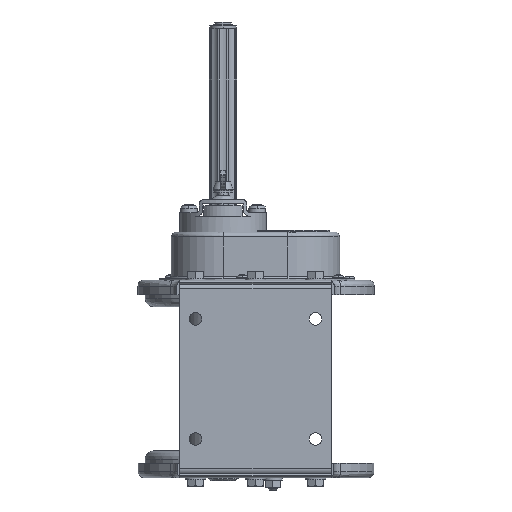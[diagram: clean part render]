
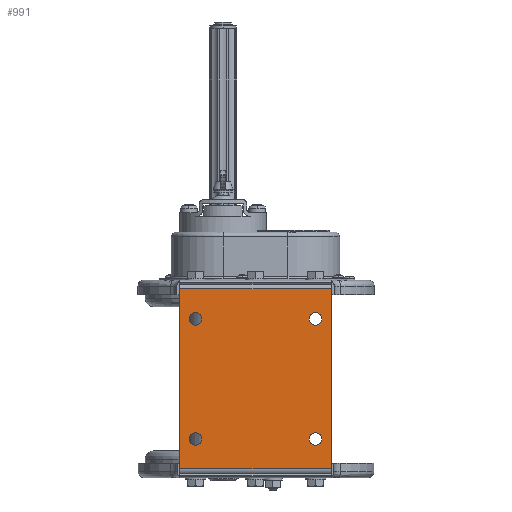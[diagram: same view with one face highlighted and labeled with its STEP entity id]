
A CAD part, front view. The second image highlights one B-rep face of the part: STEP entity #991.
In plain terms, the highlighted planar face has unit normal (0, -1, 0).
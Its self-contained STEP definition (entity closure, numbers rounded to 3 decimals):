
#991=ADVANCED_FACE('',(#11130,#11131,#11132,#11133,#11134),#11129,.F.);
#11129=PLANE('',#31194);
#11130=FACE_OUTER_BOUND('',#31195,.T.);
#11131=FACE_BOUND('',#31196,.T.);
#11132=FACE_BOUND('',#31197,.T.);
#11133=FACE_BOUND('',#31198,.T.);
#11134=FACE_BOUND('',#31199,.T.);
#31191=CARTESIAN_POINT('',(284.159,428.345,335.9));
#31192=DIRECTION('',(0.,1.,0.));
#31193=DIRECTION('',(0.,0.,1.));
#31194=AXIS2_PLACEMENT_3D('',#31191,#31192,#31193);
#31195=EDGE_LOOP('',(#44318,#44319,#44320,#44321));
#31196=EDGE_LOOP('',(#44322,#44323));
#31197=EDGE_LOOP('',(#44324,#44325));
#31198=EDGE_LOOP('',(#44326,#44327));
#31199=EDGE_LOOP('',(#44328,#44329));
#44318=ORIENTED_EDGE('',*,*,#53640,.F.);
#44319=ORIENTED_EDGE('',*,*,#53642,.F.);
#44320=ORIENTED_EDGE('',*,*,#53593,.T.);
#44321=ORIENTED_EDGE('',*,*,#53643,.T.);
#44322=ORIENTED_EDGE('',*,*,#53644,.T.);
#44323=ORIENTED_EDGE('',*,*,#53645,.T.);
#44324=ORIENTED_EDGE('',*,*,#53646,.T.);
#44325=ORIENTED_EDGE('',*,*,#53647,.T.);
#44326=ORIENTED_EDGE('',*,*,#53648,.T.);
#44327=ORIENTED_EDGE('',*,*,#53649,.T.);
#44328=ORIENTED_EDGE('',*,*,#53650,.T.);
#44329=ORIENTED_EDGE('',*,*,#53651,.T.);
#53593=EDGE_CURVE('',#73874,#73888,#73895,.T.);
#53640=EDGE_CURVE('',#74208,#74215,#74216,.T.);
#53642=EDGE_CURVE('',#73874,#74208,#74228,.T.);
#53643=EDGE_CURVE('',#73888,#74215,#74234,.T.);
#53644=EDGE_CURVE('',#74240,#74241,#74242,.T.);
#53645=EDGE_CURVE('',#74241,#74240,#74248,.T.);
#53646=EDGE_CURVE('',#74254,#74255,#74256,.T.);
#53647=EDGE_CURVE('',#74255,#74254,#74262,.T.);
#53648=EDGE_CURVE('',#74268,#74269,#74270,.T.);
#53649=EDGE_CURVE('',#74269,#74268,#74276,.T.);
#53650=EDGE_CURVE('',#74282,#74283,#74284,.T.);
#53651=EDGE_CURVE('',#74283,#74282,#74290,.T.);
#73874=VERTEX_POINT('',#105206);
#73888=VERTEX_POINT('',#105215);
#73895=LINE('',#105220,#105221);
#74208=VERTEX_POINT('',#105431);
#74215=VERTEX_POINT('',#105436);
#74216=LINE('',#105437,#105438);
#74228=LINE('',#105444,#105445);
#74234=LINE('',#105447,#105448);
#74240=VERTEX_POINT('',#105450);
#74241=VERTEX_POINT('',#105451);
#74242=CIRCLE('',#105455,5.25);
#74248=CIRCLE('',#105459,5.25);
#74254=VERTEX_POINT('',#105460);
#74255=VERTEX_POINT('',#105461);
#74256=CIRCLE('',#105465,5.25);
#74262=CIRCLE('',#105469,5.25);
#74268=VERTEX_POINT('',#105470);
#74269=VERTEX_POINT('',#105471);
#74270=CIRCLE('',#105475,5.25);
#74276=CIRCLE('',#105479,5.25);
#74282=VERTEX_POINT('',#105480);
#74283=VERTEX_POINT('',#105481);
#74284=CIRCLE('',#105485,5.25);
#74290=CIRCLE('',#105489,5.25);
#105206=CARTESIAN_POINT('',(420.159,428.345,495.9));
#105215=CARTESIAN_POINT('',(294.159,428.345,495.9));
#105220=CARTESIAN_POINT('',(420.159,428.345,495.9));
#105221=VECTOR('',#105222,126.);
#105222=DIRECTION('',(-1.,0.,0.));
#105431=CARTESIAN_POINT('',(420.159,428.345,345.9));
#105436=CARTESIAN_POINT('',(294.159,428.345,345.9));
#105437=CARTESIAN_POINT('',(420.159,428.345,345.9));
#105438=VECTOR('',#105439,126.);
#105439=DIRECTION('',(-1.,0.,0.));
#105444=CARTESIAN_POINT('',(420.159,428.345,495.9));
#105445=VECTOR('',#105446,150.);
#105446=DIRECTION('',(0.,0.,-1.));
#105447=CARTESIAN_POINT('',(294.159,428.345,495.9));
#105448=VECTOR('',#105449,150.);
#105449=DIRECTION('',(0.,0.,-1.));
#105450=CARTESIAN_POINT('',(307.159,428.345,376.15));
#105451=CARTESIAN_POINT('',(307.159,428.345,365.65));
#105452=CARTESIAN_POINT('',(307.159,428.345,370.9));
#105453=DIRECTION('',(0.,1.,0.));
#105454=DIRECTION('',(0.,0.,1.));
#105455=AXIS2_PLACEMENT_3D('',#105452,#105453,#105454);
#105456=CARTESIAN_POINT('',(307.159,428.345,370.9));
#105457=DIRECTION('',(0.,1.,0.));
#105458=DIRECTION('',(0.,0.,1.));
#105459=AXIS2_PLACEMENT_3D('',#105456,#105457,#105458);
#105460=CARTESIAN_POINT('',(407.159,428.345,376.15));
#105461=CARTESIAN_POINT('',(407.159,428.345,365.65));
#105462=CARTESIAN_POINT('',(407.159,428.345,370.9));
#105463=DIRECTION('',(0.,1.,0.));
#105464=DIRECTION('',(0.,0.,1.));
#105465=AXIS2_PLACEMENT_3D('',#105462,#105463,#105464);
#105466=CARTESIAN_POINT('',(407.159,428.345,370.9));
#105467=DIRECTION('',(0.,1.,0.));
#105468=DIRECTION('',(0.,0.,1.));
#105469=AXIS2_PLACEMENT_3D('',#105466,#105467,#105468);
#105470=CARTESIAN_POINT('',(407.159,428.345,476.15));
#105471=CARTESIAN_POINT('',(407.159,428.345,465.65));
#105472=CARTESIAN_POINT('',(407.159,428.345,470.9));
#105473=DIRECTION('',(0.,1.,0.));
#105474=DIRECTION('',(0.,0.,1.));
#105475=AXIS2_PLACEMENT_3D('',#105472,#105473,#105474);
#105476=CARTESIAN_POINT('',(407.159,428.345,470.9));
#105477=DIRECTION('',(0.,1.,0.));
#105478=DIRECTION('',(0.,0.,1.));
#105479=AXIS2_PLACEMENT_3D('',#105476,#105477,#105478);
#105480=CARTESIAN_POINT('',(307.159,428.345,476.15));
#105481=CARTESIAN_POINT('',(307.159,428.345,465.65));
#105482=CARTESIAN_POINT('',(307.159,428.345,470.9));
#105483=DIRECTION('',(0.,1.,0.));
#105484=DIRECTION('',(0.,0.,1.));
#105485=AXIS2_PLACEMENT_3D('',#105482,#105483,#105484);
#105486=CARTESIAN_POINT('',(307.159,428.345,470.9));
#105487=DIRECTION('',(0.,1.,0.));
#105488=DIRECTION('',(0.,0.,1.));
#105489=AXIS2_PLACEMENT_3D('',#105486,#105487,#105488);
